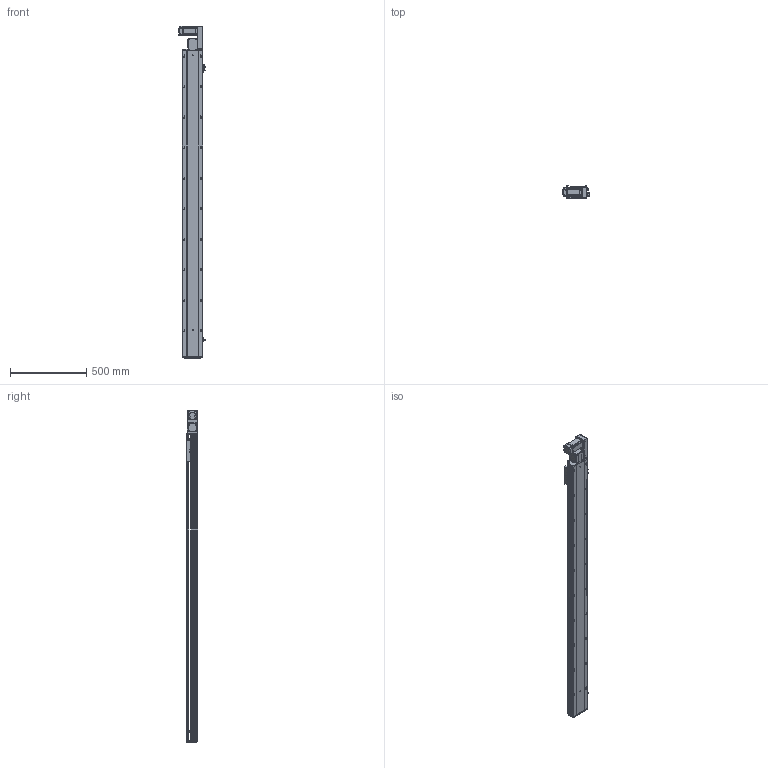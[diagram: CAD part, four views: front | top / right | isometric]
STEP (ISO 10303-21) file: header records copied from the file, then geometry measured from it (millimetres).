
FILE_DESCRIPTION (( 'STEP AP203' ), '1' );
FILE_NAME ('RY140-T-300-RK.SLDASM_1750.step', '2021-03-01T06:46:54', ( '盈信电脑' ), ( '东莞市道滘镇水果街19号' ), 'SwSTEP 2.0', 'SolidWorks 2012', '' );
FILE_SCHEMA (( 'CONFIG_CONTROL_DESIGN' ));
Length unit declared in the file: millimetre
Products named in the file (17): 15; RY120-T蹟翐M4; RY120-T主同步轮轴承压盖; RY140-T-300-RK.SLDASM_1750; RY140-T翋肮謫裔啣; 滅袉蝶18-10; RY140-T萇儂欶; RY140-T萇儂假蚾啣; RY120-T肮祭湍揤踡輸1; RY120-T肮祭湍揤踡輸2; RY140-T翋肮祭謫盓傅釱; RY140-T-300-DR倰第奻裔啣_1750; RY120外置感应片(140共用）; 覜茼ん672; RY140綴裔啣; RY140-T-300-DR倰第菁釱_1750; RY140肮祭謫臏賑輸
Assembly tree (22 placements, depth 2):
  RY140-T-300-RK.SLDASM_1750
    RY140-T-300-DR倰第菁釱_1750
    RY140肮祭謫臏賑輸
    RY140-T-300-DR倰第奻裔啣_1750
    RY140綴裔啣
    覜茼ん672  x3
    RY120外置感应片(140共用）
    RY120-T肮祭湍揤踡輸2
    RY120-T肮祭湍揤踡輸1
    RY140-T翋肮祭謫盓傅釱
    滅袉蝶18-10  x2
    RY140-T翋肮謫裔啣
    RY140-T萇儂欶
    RY140-T萇儂假蚾啣
    RY120-T蹟翐M4  x4
    15
    RY120-T主同步轮轴承压盖
Bounding box: 170.7 x 78 x 2176.5 mm (x, y, z)
Volume: 5791509.1 mm3; surface area: 2256706.2 mm2
Topology: 22 solids, 22 shells, 2823 faces, 7737 edges, 4928 vertices
Faces by surface type: plane 1381, cylinder 1068, cone 274, bspline 100
Entity records: 89010 total; most frequent: CARTESIAN_POINT 21611, ORIENTED_EDGE 13850, DIRECTION 13249, EDGE_CURVE 6925, VERTEX_POINT 4527, AXIS2_PLACEMENT_3D 4442, LINE 4365, VECTOR 4365
